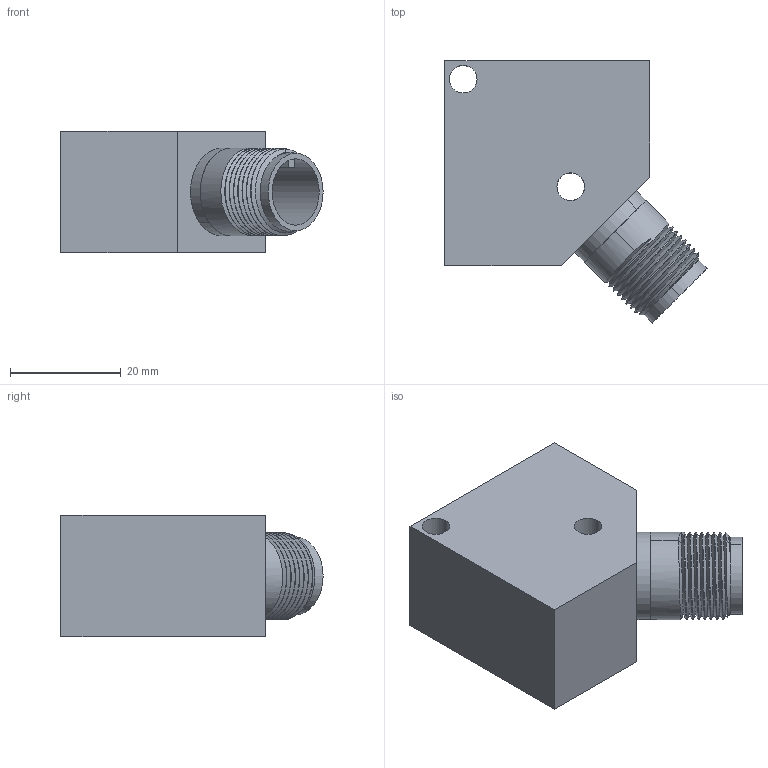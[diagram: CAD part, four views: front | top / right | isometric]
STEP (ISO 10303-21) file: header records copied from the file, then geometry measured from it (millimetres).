
FILE_DESCRIPTION (( 'STEP AP203' ), '1' );
FILE_NAME ('蚾饜极1.STEP', '2019-03-26T06:03:47', ( 'Sky123.Org' ), ( 'Sky123.Org' ), 'SwSTEP 2.0', 'SolidWorks 2013', '' );
FILE_SCHEMA (( 'CONFIG_CONTROL_DESIGN' ));
Length unit declared in the file: millimetre
Products named in the file (4): 錨璃1; 蚾饜极1; 侐郋脣釱; 脣釱
Assembly tree (3 placements, depth 2):
  蚾饜极1
    錨璃1
    侐郋脣釱
    脣釱
Bounding box: 47.38 x 47.38 x 22 mm (x, y, z)
Volume: 27141.8 mm3; surface area: 9251.7 mm2
Topology: 4 solids, 4 shells, 74 faces, 178 edges, 115 vertices
Faces by surface type: cylinder 40, plane 25, cone 7, bspline 2
Entity records: 3643 total; most frequent: CARTESIAN_POINT 1554, ORIENTED_EDGE 356, DIRECTION 352, EDGE_CURVE 178, AXIS2_PLACEMENT_3D 137, VERTEX_POINT 115, EDGE_LOOP 87, VECTOR 78
